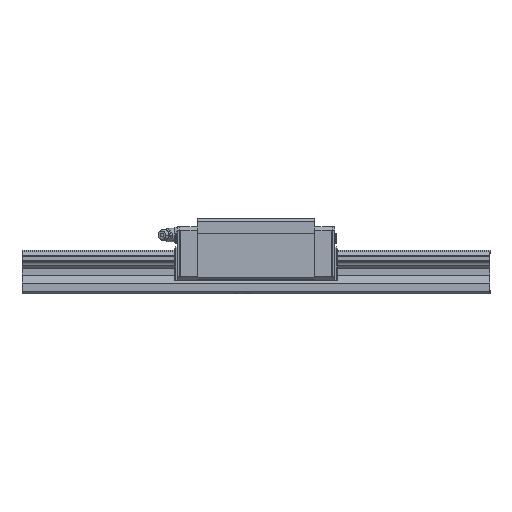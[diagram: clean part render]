
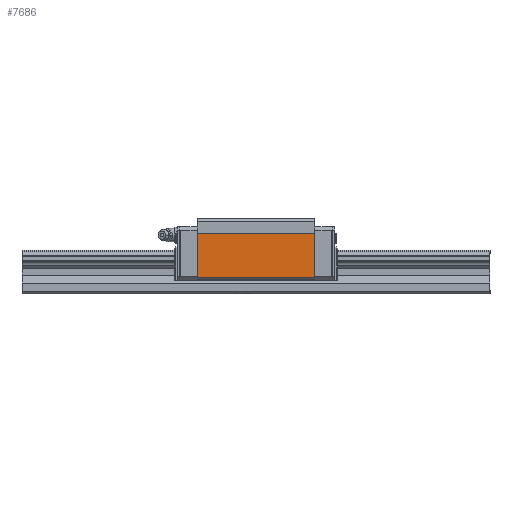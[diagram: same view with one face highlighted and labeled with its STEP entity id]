
A CAD part, top view. The second image highlights one B-rep face of the part: STEP entity #7686.
In plain terms, the highlighted planar face has unit normal (0, 0, 1).
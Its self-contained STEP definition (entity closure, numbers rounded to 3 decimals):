
#315 = LINE ( 'NONE', #3570, #694 ) ;
#532 = CARTESIAN_POINT ( 'NONE',  ( 155.2, 9.353, 29.7 ) ) ;
#622 = EDGE_CURVE ( 'NONE', #6427, #6551, #8623, .T. ) ;
#653 = VERTEX_POINT ( 'NONE', #2430 ) ;
#694 = VECTOR ( 'NONE', #1197, 1000. ) ;
#1197 = DIRECTION ( 'NONE',  ( 1., 0., 0. ) ) ;
#1287 = VECTOR ( 'NONE', #9259, 1000. ) ;
#1356 = EDGE_LOOP ( 'NONE', ( #5878, #9276, #6599, #6784 ) ) ;
#1820 = EDGE_CURVE ( 'NONE', #6551, #653, #3813, .T. ) ;
#2247 = DIRECTION ( 'NONE',  ( 0., -1., 0. ) ) ;
#2290 = CARTESIAN_POINT ( 'NONE',  ( 155.2, 7., 29.7 ) ) ;
#2430 = CARTESIAN_POINT ( 'NONE',  ( 84.8, 9.353, 29.7 ) ) ;
#3287 = CARTESIAN_POINT ( 'NONE',  ( 84.8, 35.7, 29.7 ) ) ;
#3570 = CARTESIAN_POINT ( 'NONE',  ( 155.2, 9.353, 29.7 ) ) ;
#3789 = CARTESIAN_POINT ( 'NONE',  ( 155.2, 35.7, 29.7 ) ) ;
#3813 = LINE ( 'NONE', #8379, #4549 ) ;
#4549 = VECTOR ( 'NONE', #7543, 1000. ) ;
#5712 = VECTOR ( 'NONE', #2247, 1000. ) ;
#5713 = EDGE_CURVE ( 'NONE', #6427, #6266, #9004, .T. ) ;
#5878 = ORIENTED_EDGE ( 'NONE', *, *, #5713, .F. ) ;
#6266 = VERTEX_POINT ( 'NONE', #532 ) ;
#6427 = VERTEX_POINT ( 'NONE', #8671 ) ;
#6551 = VERTEX_POINT ( 'NONE', #3287 ) ;
#6599 = ORIENTED_EDGE ( 'NONE', *, *, #1820, .T. ) ;
#6708 = PLANE ( 'NONE',  #7480 ) ;
#6784 = ORIENTED_EDGE ( 'NONE', *, *, #8258, .T. ) ;
#7404 = FACE_OUTER_BOUND ( 'NONE', #1356, .T. ) ;
#7480 = AXIS2_PLACEMENT_3D ( 'NONE', #9105, #9806, #9005 ) ;
#7543 = DIRECTION ( 'NONE',  ( 0., -1., 0. ) ) ;
#7686 = ADVANCED_FACE ( 'NONE', ( #7404 ), #6708, .T. ) ;
#8258 = EDGE_CURVE ( 'NONE', #653, #6266, #315, .T. ) ;
#8379 = CARTESIAN_POINT ( 'NONE',  ( 84.8, 7., 29.7 ) ) ;
#8623 = LINE ( 'NONE', #3789, #1287 ) ;
#8671 = CARTESIAN_POINT ( 'NONE',  ( 155.2, 35.7, 29.7 ) ) ;
#9004 = LINE ( 'NONE', #2290, #5712 ) ;
#9005 = DIRECTION ( 'NONE',  ( 1., 0., 0. ) ) ;
#9105 = CARTESIAN_POINT ( 'NONE',  ( 155.2, 35.7, 29.7 ) ) ;
#9259 = DIRECTION ( 'NONE',  ( -1., 0., 0. ) ) ;
#9276 = ORIENTED_EDGE ( 'NONE', *, *, #622, .T. ) ;
#9806 = DIRECTION ( 'NONE',  ( 0., 0., 1. ) ) ;
